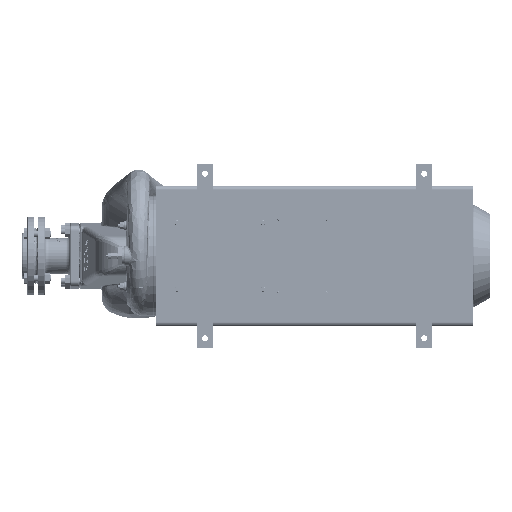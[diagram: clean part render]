
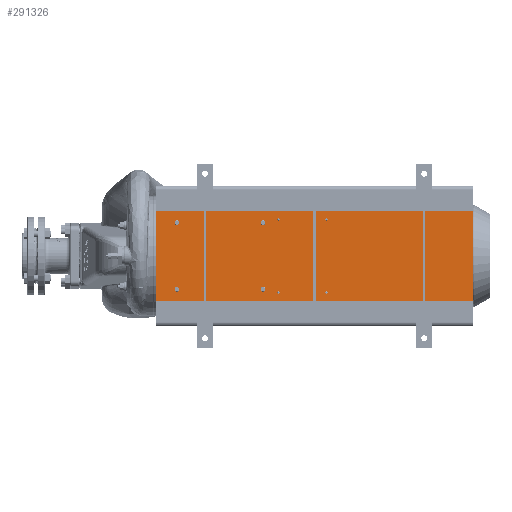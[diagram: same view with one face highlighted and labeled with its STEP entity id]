
A CAD part, front view. The second image highlights one B-rep face of the part: STEP entity #291326.
In plain terms, the highlighted planar face has unit normal (0, -1, 0).
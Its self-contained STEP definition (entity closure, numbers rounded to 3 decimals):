
#290540=DIRECTION('',(0.,0.,1.));
#290541=VECTOR('',#290540,810.);
#290542=CARTESIAN_POINT('',(168.,0.,0.));
#290543=LINE('',#290542,#290541);
#290619=DIRECTION('',(1.,0.,0.));
#290620=VECTOR('',#290619,336.);
#290621=CARTESIAN_POINT('',(-168.,0.,0.));
#290622=LINE('',#290621,#290620);
#290627=DIRECTION('',(0.,0.,1.));
#290628=VECTOR('',#290627,810.);
#290629=CARTESIAN_POINT('',(-168.,0.,0.));
#290630=LINE('',#290629,#290628);
#290645=CARTESIAN_POINT('',(-85.,0.,757.));
#290646=DIRECTION('',(0.,1.,0.));
#290647=DIRECTION('',(0.,0.,-1.));
#290648=AXIS2_PLACEMENT_3D('',#290645,#290646,#290647);
#290650=CARTESIAN_POINT('',(-85.,0.,757.));
#290651=DIRECTION('',(0.,1.,0.));
#290652=DIRECTION('',(0.,0.,1.));
#290653=AXIS2_PLACEMENT_3D('',#290650,#290651,#290652);
#290655=CARTESIAN_POINT('',(-85.,0.,537.));
#290656=DIRECTION('',(0.,1.,0.));
#290657=DIRECTION('',(0.,0.,-1.));
#290658=AXIS2_PLACEMENT_3D('',#290655,#290656,#290657);
#290660=CARTESIAN_POINT('',(-85.,0.,537.));
#290661=DIRECTION('',(0.,1.,0.));
#290662=DIRECTION('',(0.,0.,1.));
#290663=AXIS2_PLACEMENT_3D('',#290660,#290661,#290662);
#290665=CARTESIAN_POINT('',(85.,0.,757.));
#290666=DIRECTION('',(0.,1.,0.));
#290667=DIRECTION('',(0.,0.,-1.));
#290668=AXIS2_PLACEMENT_3D('',#290665,#290666,#290667);
#290670=CARTESIAN_POINT('',(85.,0.,757.));
#290671=DIRECTION('',(0.,1.,0.));
#290672=DIRECTION('',(0.,0.,1.));
#290673=AXIS2_PLACEMENT_3D('',#290670,#290671,#290672);
#290675=CARTESIAN_POINT('',(85.,0.,537.));
#290676=DIRECTION('',(0.,1.,0.));
#290677=DIRECTION('',(0.,0.,-1.));
#290678=AXIS2_PLACEMENT_3D('',#290675,#290676,#290677);
#290680=CARTESIAN_POINT('',(85.,0.,537.));
#290681=DIRECTION('',(0.,1.,0.));
#290682=DIRECTION('',(0.,0.,1.));
#290683=AXIS2_PLACEMENT_3D('',#290680,#290681,#290682);
#290693=DIRECTION('',(1.,0.,0.));
#290694=VECTOR('',#290693,336.);
#290695=CARTESIAN_POINT('',(-168.,0.,810.));
#290696=LINE('',#290695,#290694);
#290877=CARTESIAN_POINT('',(-168.,0.,0.));
#290878=CARTESIAN_POINT('',(168.,0.,0.));
#290879=VERTEX_POINT('',#290877);
#290880=VERTEX_POINT('',#290878);
#290881=CARTESIAN_POINT('',(-168.,0.,810.));
#290882=CARTESIAN_POINT('',(168.,0.,810.));
#290883=VERTEX_POINT('',#290881);
#290884=VERTEX_POINT('',#290882);
#290935=CARTESIAN_POINT('',(-85.,0.,751.9));
#290936=CARTESIAN_POINT('',(-85.,0.,762.1));
#290937=VERTEX_POINT('',#290935);
#290938=VERTEX_POINT('',#290936);
#290943=CARTESIAN_POINT('',(-85.,0.,531.9));
#290944=CARTESIAN_POINT('',(-85.,0.,542.1));
#290945=VERTEX_POINT('',#290943);
#290946=VERTEX_POINT('',#290944);
#290951=CARTESIAN_POINT('',(85.,0.,751.9));
#290952=CARTESIAN_POINT('',(85.,0.,762.1));
#290953=VERTEX_POINT('',#290951);
#290954=VERTEX_POINT('',#290952);
#290959=CARTESIAN_POINT('',(85.,0.,531.9));
#290960=CARTESIAN_POINT('',(85.,0.,542.1));
#290961=VERTEX_POINT('',#290959);
#290962=VERTEX_POINT('',#290960);
#291290=CARTESIAN_POINT('',(-174.,0.,0.));
#291291=DIRECTION('',(0.,-1.,0.));
#291292=DIRECTION('',(1.,0.,0.));
#291293=AXIS2_PLACEMENT_3D('',#291290,#291291,#291292);
#291294=PLANE('',#291293);
#291295=ORIENTED_EDGE('',*,*,#291255,.F.);
#291296=ORIENTED_EDGE('',*,*,#291280,.T.);
#291298=ORIENTED_EDGE('',*,*,#291297,.T.);
#291299=ORIENTED_EDGE('',*,*,#291174,.F.);
#291300=EDGE_LOOP('',(#291295,#291296,#291298,#291299));
#291301=FACE_OUTER_BOUND('',#291300,.F.);
#291303=ORIENTED_EDGE('',*,*,#291302,.F.);
#291305=ORIENTED_EDGE('',*,*,#291304,.F.);
#291306=EDGE_LOOP('',(#291303,#291305));
#291307=FACE_BOUND('',#291306,.F.);
#291309=ORIENTED_EDGE('',*,*,#291308,.F.);
#291311=ORIENTED_EDGE('',*,*,#291310,.F.);
#291312=EDGE_LOOP('',(#291309,#291311));
#291313=FACE_BOUND('',#291312,.F.);
#291315=ORIENTED_EDGE('',*,*,#291314,.F.);
#291317=ORIENTED_EDGE('',*,*,#291316,.F.);
#291318=EDGE_LOOP('',(#291315,#291317));
#291319=FACE_BOUND('',#291318,.F.);
#291321=ORIENTED_EDGE('',*,*,#291320,.F.);
#291323=ORIENTED_EDGE('',*,*,#291322,.F.);
#291324=EDGE_LOOP('',(#291321,#291323));
#291325=FACE_BOUND('',#291324,.F.);
#291326=ADVANCED_FACE('',(#291301,#291307,#291313,#291319,#291325),#291294,.T.);
#290649=CIRCLE('',#290648,5.1);
#290654=CIRCLE('',#290653,5.1);
#290659=CIRCLE('',#290658,5.1);
#290664=CIRCLE('',#290663,5.1);
#290669=CIRCLE('',#290668,5.1);
#290674=CIRCLE('',#290673,5.1);
#290679=CIRCLE('',#290678,5.1);
#290684=CIRCLE('',#290683,5.1);
#291174=EDGE_CURVE('',#290880,#290884,#290543,.T.);
#291255=EDGE_CURVE('',#290879,#290880,#290622,.T.);
#291280=EDGE_CURVE('',#290879,#290883,#290630,.T.);
#291297=EDGE_CURVE('',#290883,#290884,#290696,.T.);
#291302=EDGE_CURVE('',#290937,#290938,#290649,.T.);
#291304=EDGE_CURVE('',#290938,#290937,#290654,.T.);
#291308=EDGE_CURVE('',#290945,#290946,#290659,.T.);
#291310=EDGE_CURVE('',#290946,#290945,#290664,.T.);
#291314=EDGE_CURVE('',#290953,#290954,#290669,.T.);
#291316=EDGE_CURVE('',#290954,#290953,#290674,.T.);
#291320=EDGE_CURVE('',#290961,#290962,#290679,.T.);
#291322=EDGE_CURVE('',#290962,#290961,#290684,.T.);
